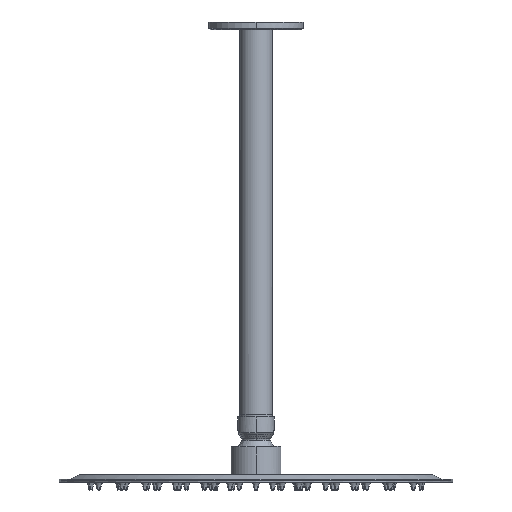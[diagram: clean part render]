
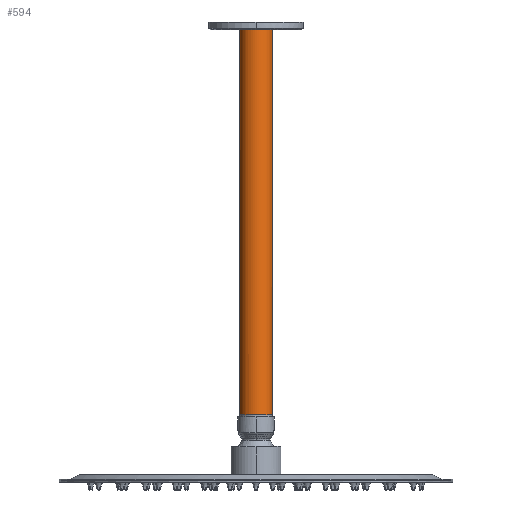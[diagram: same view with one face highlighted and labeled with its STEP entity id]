
A CAD part, left-side view. The second image highlights one B-rep face of the part: STEP entity #594.
In plain terms, the highlighted cylindrical face has radius 10.5 mm (diameter 21 mm), a partial arc.
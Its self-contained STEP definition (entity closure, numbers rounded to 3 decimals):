
#594=ADVANCED_FACE('',(#1936),#18971,.T.);
#1936=FACE_OUTER_BOUND('',#3278,.T.);
#3278=EDGE_LOOP('',(#5004,#5005,#5006,#5007));
#5004=ORIENTED_EDGE('',*,*,#10737,.T.);
#5005=ORIENTED_EDGE('',*,*,#10738,.T.);
#5006=ORIENTED_EDGE('',*,*,#10739,.T.);
#5007=ORIENTED_EDGE('',*,*,#10740,.T.);
#10737=EDGE_CURVE('',#16476,#16477,#13602,.T.);
#10738=EDGE_CURVE('',#16477,#16478,#15865,.T.);
#10739=EDGE_CURVE('',#16478,#16479,#13603,.T.);
#10740=EDGE_CURVE('',#16479,#16476,#15866,.T.);
#13602=(
BOUNDED_CURVE()
B_SPLINE_CURVE(2,(#21462,#21463,#21464,#21465,#21466),.UNSPECIFIED.,.F.,
 .F.)
B_SPLINE_CURVE_WITH_KNOTS((3,2,3),(0.,16.493,32.987),
 .UNSPECIFIED.)
CURVE()
GEOMETRIC_REPRESENTATION_ITEM()
RATIONAL_B_SPLINE_CURVE((1.,0.707,1.,0.707,1.))
REPRESENTATION_ITEM('')
);
#13603=(
BOUNDED_CURVE()
B_SPLINE_CURVE(2,(#21469,#21470,#21471,#21472,#21473),.UNSPECIFIED.,.F.,
 .F.)
B_SPLINE_CURVE_WITH_KNOTS((3,2,3),(0.,16.493,32.987),
 .UNSPECIFIED.)
CURVE()
GEOMETRIC_REPRESENTATION_ITEM()
RATIONAL_B_SPLINE_CURVE((1.,0.707,1.,0.707,1.))
REPRESENTATION_ITEM('')
);
#15865=B_SPLINE_CURVE_WITH_KNOTS('',1,(#21467,#21468),.UNSPECIFIED.,.F.,
 .F.,(2,2),(0.,249.5),.UNSPECIFIED.);
#15866=B_SPLINE_CURVE_WITH_KNOTS('',1,(#21474,#21475),.UNSPECIFIED.,.F.,
 .F.,(2,2),(0.,249.5),.UNSPECIFIED.);
#16476=VERTEX_POINT('',#21426);
#16477=VERTEX_POINT('',#21427);
#16478=VERTEX_POINT('',#21428);
#16479=VERTEX_POINT('',#21429);
#18971=CYLINDRICAL_SURFACE('',#19805,10.5);
#19805=AXIS2_PLACEMENT_3D('',#21393,#20587,$);
#20587=DIRECTION('',(0.,0.,-1.));
#21393=CARTESIAN_POINT('',(0.,-350.,1068.25));
#21426=CARTESIAN_POINT('',(0.,-360.5,1193.));
#21427=CARTESIAN_POINT('',(0.,-339.5,1193.));
#21428=CARTESIAN_POINT('',(0.,-339.5,943.5));
#21429=CARTESIAN_POINT('',(0.,-360.5,943.5));
#21462=CARTESIAN_POINT('',(0.,-360.5,1193.));
#21463=CARTESIAN_POINT('',(-10.5,-360.5,1193.));
#21464=CARTESIAN_POINT('',(-10.5,-350.,1193.));
#21465=CARTESIAN_POINT('',(-10.5,-339.5,1193.));
#21466=CARTESIAN_POINT('',(0.,-339.5,1193.));
#21467=CARTESIAN_POINT('',(0.,-339.5,1193.));
#21468=CARTESIAN_POINT('',(0.,-339.5,943.5));
#21469=CARTESIAN_POINT('',(0.,-339.5,943.5));
#21470=CARTESIAN_POINT('',(-10.5,-339.5,943.5));
#21471=CARTESIAN_POINT('',(-10.5,-350.,943.5));
#21472=CARTESIAN_POINT('',(-10.5,-360.5,943.5));
#21473=CARTESIAN_POINT('',(0.,-360.5,943.5));
#21474=CARTESIAN_POINT('',(0.,-360.5,943.5));
#21475=CARTESIAN_POINT('',(0.,-360.5,1193.));
